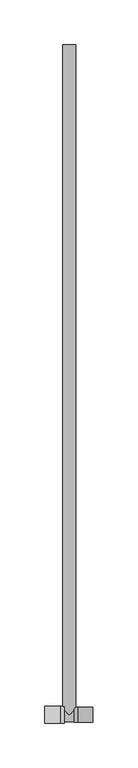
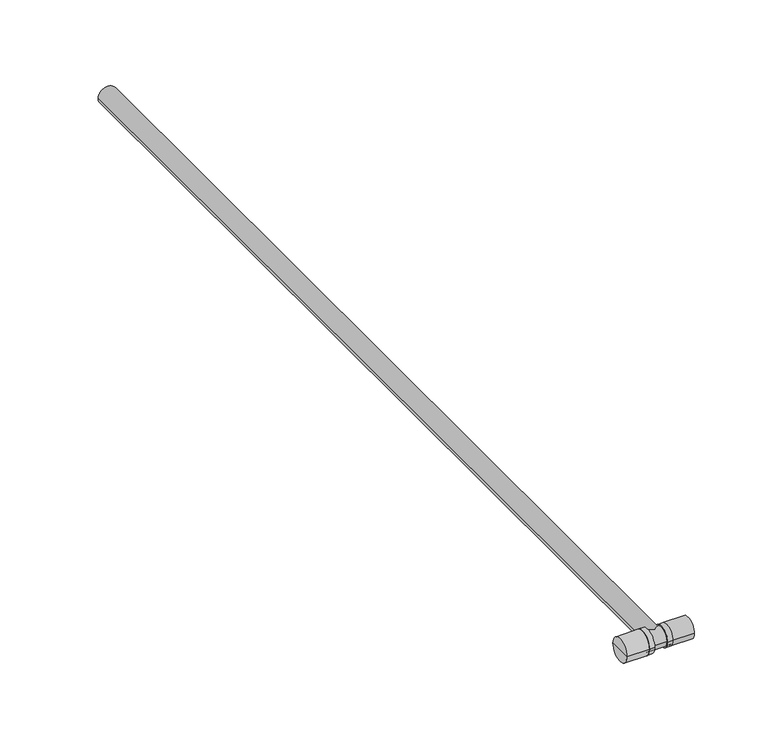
"""IFC4 building model written with IfcOpenShell, lengths in millimetres: pipe fitting geometry, KAN-therm Push trójnik redukcyjny z rurą Cu15 L=750 : KAN-therm Push trójnik redukcyjny z rurą Cu15 L=750."""

from ifc_helpers import new_model, si_unit, frame, origin, place, context, project, spatial, circle_curve, ellipse_curve, source, transform, mapped, element, save
from ifc_brep_helpers import plane_surface, cylinder_surface, advanced_brep


def pipe_fitting_5e0c743a(model_context):
    return source(origin(), model_context, "Body", "AdvancedBrep", [
        advanced_brep(
        [(-9.5, -9.5, 0.0), (-9.5, 0.0, 0.0), (-9.5, 9.5, 0.0), (-5.5, -9.5, 0.0), (-5.5, 9.5, 0.0), (-5.5, 0.0, 0.0)],
        [
            (0, 1),
            (1, 2),
            (2, 0, circle_curve(frame((-9.5, 0.0, 0.0), z_axis=(-1.0, 0.0, 0.0), x_axis=(0.0, 1.0, 0.0)), 9.5)),
            (0, 2, circle_curve(frame((-9.5, 0.0, 0.0), z_axis=(-1.0, 0.0, 0.0), x_axis=(0.0, 1.0, 0.0)), 9.5)),
            (3, 0),
            (2, 4),
            (4, 3, circle_curve(frame((-5.5, 0.0, 0.0), z_axis=(-1.0, 0.0, 0.0), x_axis=(0.0, 1.0, 0.0)), 9.5)),
            (3, 4, circle_curve(frame((-5.5, 0.0, 0.0), z_axis=(-1.0, 0.0, 0.0), x_axis=(0.0, 1.0, 0.0)), 9.5)),
            (5, 3),
            (4, 5),
        ],
        [
            plane_surface(frame((-9.5, 0.0, 0.0), z_axis=(-1.0, 0.0, 0.0), x_axis=(0.0, 1.0, 0.0))),
            cylinder_surface(frame((-2004.5, 0.0, 0.0), z_axis=(1.0, 0.0, 0.0), x_axis=(0.0, 1.0, 0.0)), 9.5),
            plane_surface(frame((-5.5, 0.0, 0.0), z_axis=(1.0, 0.0, 0.0), x_axis=(0.0, 1.0, 0.0))),
        ],
        [
            (0, [[1, 2, 3]]),
            (0, [[-2, -1, 4]]),
            (1, [[5, -3, 6, 7]]),
            (1, [[-6, -4, -5, 8]]),
            (2, [[9, -7, 10]]),
            (2, [[-10, -8, -9]]),
        ],
    ),
        advanced_brep(
        [(-27.5, -9.5, 0.0), (-27.5, 0.0, 0.0), (-27.5, 9.5, 0.0), (-9.5, -9.5, 0.0), (-9.5, 9.5, 0.0), (-9.5, 0.0, 0.0)],
        [
            (0, 1),
            (1, 2),
            (2, 0, circle_curve(frame((-27.5, 0.0, 0.0), z_axis=(-1.0, 0.0, 0.0), x_axis=(0.0, 1.0, 0.0)), 9.5)),
            (0, 2, circle_curve(frame((-27.5, 0.0, 0.0), z_axis=(-1.0, 0.0, 0.0), x_axis=(0.0, 1.0, 0.0)), 9.5)),
            (3, 0),
            (2, 4),
            (4, 3, circle_curve(frame((-9.5, 0.0, 0.0), z_axis=(-1.0, 0.0, 0.0), x_axis=(0.0, 1.0, 0.0)), 9.5)),
            (3, 4, circle_curve(frame((-9.5, 0.0, 0.0), z_axis=(-1.0, 0.0, 0.0), x_axis=(0.0, 1.0, 0.0)), 9.5)),
            (5, 3),
            (4, 5),
        ],
        [
            plane_surface(frame((-27.5, 0.0, 0.0), z_axis=(-1.0, 0.0, 0.0), x_axis=(0.0, 1.0, 0.0))),
            cylinder_surface(frame((-2004.5, 0.0, 0.0), z_axis=(1.0, 0.0, 0.0), x_axis=(0.0, 1.0, 0.0)), 9.5),
            plane_surface(frame((-9.5, 0.0, 0.0), z_axis=(1.0, 0.0, 0.0), x_axis=(0.0, 1.0, 0.0))),
        ],
        [
            (0, [[1, 2, 3]]),
            (0, [[-2, -1, 4]]),
            (1, [[5, -3, 6, 7]]),
            (1, [[-6, -4, -5, 8]]),
            (2, [[9, -7, 10]]),
            (2, [[-10, -8, -9]]),
        ],
    ),
        advanced_brep(
        [(9.5, -8.5, 0.0), (9.5, 8.5, 0.0), (9.5, 0.0, 0.0), (5.5, -8.5, 0.0), (5.5, 8.5, 0.0), (5.5, 0.0, 0.0)],
        [
            (0, 1, circle_curve(frame((9.5, 0.0, 0.0), z_axis=(1.0, 0.0, 0.0), x_axis=(0.0, 1.0, 0.0)), 8.5)),
            (1, 2),
            (2, 0),
            (1, 0, circle_curve(frame((9.5, 0.0, 0.0), z_axis=(1.0, 0.0, 0.0), x_axis=(0.0, 1.0, 0.0)), 8.5)),
            (3, 4, circle_curve(frame((5.5, 0.0, 0.0), z_axis=(1.0, 0.0, 0.0), x_axis=(0.0, 1.0, 0.0)), 8.5)),
            (4, 1),
            (0, 3),
            (4, 3, circle_curve(frame((5.5, 0.0, 0.0), z_axis=(1.0, 0.0, 0.0), x_axis=(0.0, 1.0, 0.0)), 8.5)),
            (5, 4),
            (3, 5),
        ],
        [
            plane_surface(frame((9.5, 0.0, 0.0), z_axis=(1.0, 0.0, 0.0), x_axis=(0.0, 1.0, 0.0))),
            cylinder_surface(frame((2003.5, 0.0, 0.0), z_axis=(-1.0, 0.0, 0.0), x_axis=(0.0, 1.0, 0.0)), 8.5),
            plane_surface(frame((5.5, 0.0, 0.0), z_axis=(-1.0, 0.0, 0.0), x_axis=(0.0, 1.0, 0.0))),
        ],
        [
            (0, [[1, 2, 3]]),
            (0, [[4, -3, -2]]),
            (1, [[5, 6, -1, 7]]),
            (1, [[8, -7, -4, -6]]),
            (2, [[9, -5, 10]]),
            (2, [[-10, -8, -9]]),
        ],
    ),
        advanced_brep(
        [(26.5, -8.5, 0.0), (26.5, 8.5, 0.0), (26.5, 0.0, 0.0), (9.5, -8.5, 0.0), (9.5, 8.5, 0.0), (9.5, 0.0, 0.0)],
        [
            (0, 1, circle_curve(frame((26.5, 0.0, 0.0), z_axis=(1.0, 0.0, 0.0), x_axis=(0.0, 1.0, 0.0)), 8.5)),
            (1, 2),
            (2, 0),
            (1, 0, circle_curve(frame((26.5, 0.0, 0.0), z_axis=(1.0, 0.0, 0.0), x_axis=(0.0, 1.0, 0.0)), 8.5)),
            (3, 4, circle_curve(frame((9.5, 0.0, 0.0), z_axis=(1.0, 0.0, 0.0), x_axis=(0.0, 1.0, 0.0)), 8.5)),
            (4, 1),
            (0, 3),
            (4, 3, circle_curve(frame((9.5, 0.0, 0.0), z_axis=(1.0, 0.0, 0.0), x_axis=(0.0, 1.0, 0.0)), 8.5)),
            (5, 4),
            (3, 5),
        ],
        [
            plane_surface(frame((26.5, 0.0, 0.0), z_axis=(1.0, 0.0, 0.0), x_axis=(0.0, 1.0, 0.0))),
            cylinder_surface(frame((2003.5, 0.0, 0.0), z_axis=(-1.0, 0.0, 0.0), x_axis=(0.0, 1.0, 0.0)), 8.5),
            plane_surface(frame((9.5, 0.0, 0.0), z_axis=(-1.0, 0.0, 0.0), x_axis=(0.0, 1.0, 0.0))),
        ],
        [
            (0, [[1, 2, 3]]),
            (0, [[4, -3, -2]]),
            (1, [[5, 6, -1, 7]]),
            (1, [[8, -7, -4, -6]]),
            (2, [[9, -5, 10]]),
            (2, [[-10, -8, -9]]),
        ],
    ),
        advanced_brep(
        [(-7.5, 750.0, 0.0), (7.5, 750.0, 0.0), (7.5, 7.5, 0.0), (0.0, 0.0, -7.5), (-7.5, 7.5, 0.0), (0.0, 0.0, 7.5), (0.0, 750.0, 0.0), (9.5, -7.5, 0.0), (9.5, 7.5, 0.0), (9.5, 0.0, 0.0), (-9.5, 0.0, 0.0), (-9.5, 7.5, 0.0), (-9.5, -7.5, 0.0)],
        [
            (0, 1, circle_curve(frame((0.0, 750.0, 0.0), z_axis=(0.0, -1.0, 0.0), x_axis=(1.0, 0.0, 0.0)), 7.5)),
            (1, 2),
            (2, 3, ellipse_curve(frame((0.0, 0.0, 0.0), z_axis=(-0.7071067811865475, 0.7071067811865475, 0.0), x_axis=(0.7071067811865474, 0.7071067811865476, 0.0)), 10.6066017, 7.5)),
            (3, 4, ellipse_curve(frame((0.0, 0.0, 0.0), z_axis=(0.7071067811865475, 0.7071067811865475, 0.0), x_axis=(-0.7071067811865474, 0.7071067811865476, 0.0)), 10.6066017, 7.5)),
            (4, 0),
            (1, 0, circle_curve(frame((0.0, 750.0, 0.0), z_axis=(0.0, -1.0, 0.0), x_axis=(1.0, 0.0, 0.0)), 7.5)),
            (4, 5, ellipse_curve(frame((0.0, 0.0, 0.0), z_axis=(0.7071067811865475, 0.7071067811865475, 0.0), x_axis=(-0.7071067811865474, 0.7071067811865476, 0.0)), 10.6066017, 7.5)),
            (5, 2, ellipse_curve(frame((0.0, 0.0, 0.0), z_axis=(-0.7071067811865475, 0.7071067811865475, 0.0), x_axis=(0.7071067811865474, 0.7071067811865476, 0.0)), 10.6066017, 7.5)),
            (0, 6),
            (6, 1),
            (7, 8, circle_curve(frame((9.5, 0.0, 0.0), z_axis=(1.0, 0.0, 0.0), x_axis=(0.0, 1.0, 0.0)), 7.5)),
            (8, 9),
            (9, 7),
            (8, 7, circle_curve(frame((9.5, 0.0, 0.0), z_axis=(1.0, 0.0, 0.0), x_axis=(0.0, 1.0, 0.0)), 7.5)),
            (10, 11),
            (11, 12, circle_curve(frame((-9.5, 0.0, 0.0), z_axis=(-1.0, 0.0, 0.0), x_axis=(0.0, 1.0, 0.0)), 7.5)),
            (12, 10),
            (12, 11, circle_curve(frame((-9.5, 0.0, 0.0), z_axis=(-1.0, 0.0, 0.0), x_axis=(0.0, 1.0, 0.0)), 7.5)),
            (7, 12),
            (11, 4),
            (2, 8),
        ],
        [
            cylinder_surface(frame((0.0, 2450.0, 0.0), z_axis=(0.0, 1.0, 0.0), x_axis=(1.0, 0.0, 0.0)), 7.5),
            plane_surface(frame((0.0, 750.0, 0.0), z_axis=(0.0, 1.0, 0.0), x_axis=(1.0, 0.0, 0.0))),
            plane_surface(frame((9.5, 0.0, 0.0), z_axis=(1.0, 0.0, 0.0), x_axis=(0.0, 1.0, 0.0))),
            plane_surface(frame((-9.5, 0.0, 0.0), z_axis=(-1.0, 0.0, 0.0), x_axis=(0.0, 1.0, 0.0))),
            cylinder_surface(frame((2003.5, 0.0, 0.0), z_axis=(-1.0, 0.0, 0.0), x_axis=(0.0, 1.0, 0.0)), 7.5),
        ],
        [
            (0, [[1, 2, 3, 4, 5]]),
            (0, [[6, -5, 7, 8, -2]]),
            (1, [[-1, 9, 10]]),
            (1, [[-6, -10, -9]]),
            (2, [[11, 12, 13]]),
            (2, [[-12, 14, -13]]),
            (3, [[15, 16, 17]]),
            (3, [[-15, -17, 18]]),
            (4, [[-11, 19, -16, 20, -4, -3, 21]]),
            (4, [[-14, -21, -8, -7, -20, -18, -19]]),
        ],
    ),
    ])


if __name__ == "__main__":
    model = new_model("IFC4")
    model_context = context("Model", 3, world=origin())
    ifc_project = project(units=[si_unit("LENGTHUNIT", "METRE", prefix="MILLI")], contexts=[model_context])
    site = spatial("IfcSite", under=ifc_project)
    building = spatial("IfcBuilding", under=site)
    placement = place(None, origin())
    pipe_fitting_shape = pipe_fitting_5e0c743a(model_context)
    element("IfcPipeFitting", 1, ObjectType="KAN-therm Push trójnik redukcyjny z rurą Cu15 L=750 : KAN-therm Push trójnik redukcyjny z rurą Cu15 L=750", at=placement, inside=building, context=model_context, shape_type="MappedRepresentation", body=[
        mapped(pipe_fitting_shape, transform((0.0, 0.0, 0.0), x_axis=(1.0, 0.0, 0.0), y_axis=(0.0, 1.0, 0.0), z_axis=(0.0, 0.0, 1.0))),
    ])
    save(model, "model.ifc")
